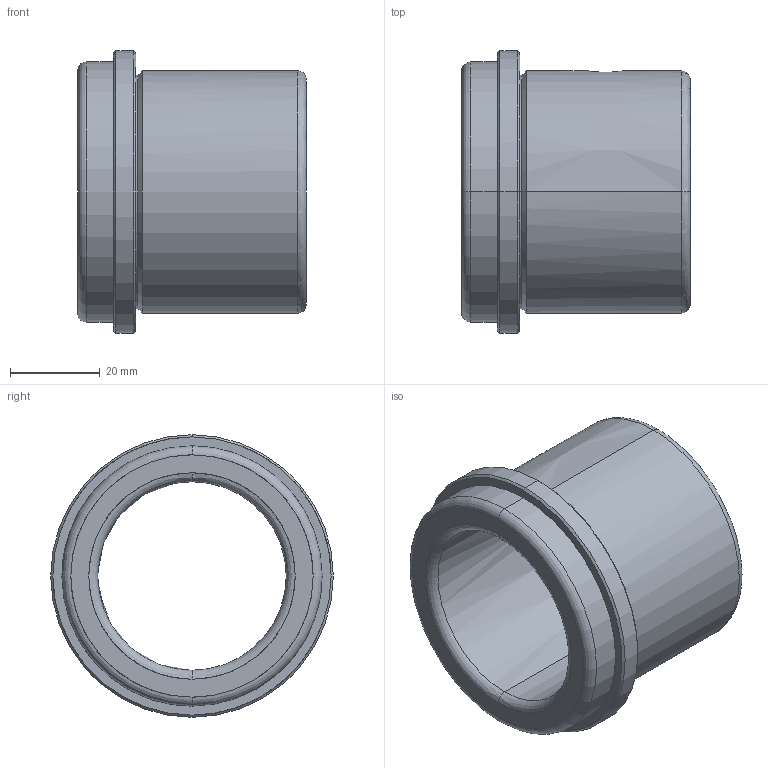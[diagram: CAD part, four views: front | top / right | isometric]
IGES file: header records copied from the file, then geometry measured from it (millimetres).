
Start section: START RECORD GO HERE.
Global section: file name: CF 631 42 x 51.igs; native system: DASSAULT SYSTEMES CATIA V5 R20 - www.3ds.com; preprocessor: CATIA Version 5 Release 20 ; author: Utente; organization: NB04-ASUS; date: 20201226.201657; units: millimetre
Bounding box: 51 x 63 x 63 mm (x, y, z)
Surface area: 18958.3 mm2 (no closed solid volume)
Topology: 0 solids, 0 shells, 33 faces, 228 edges, 228 vertices
Faces by surface type: revolution 28, plane 5
